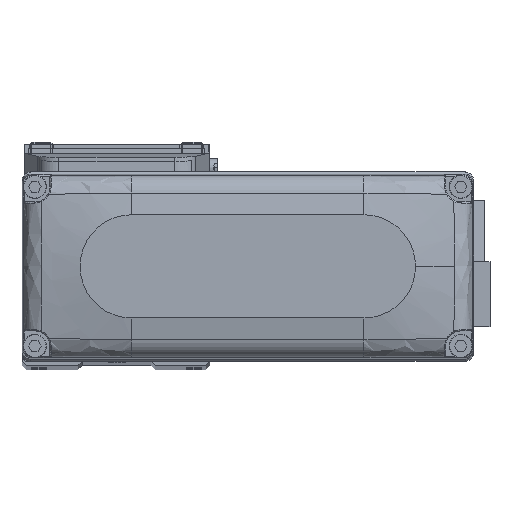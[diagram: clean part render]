
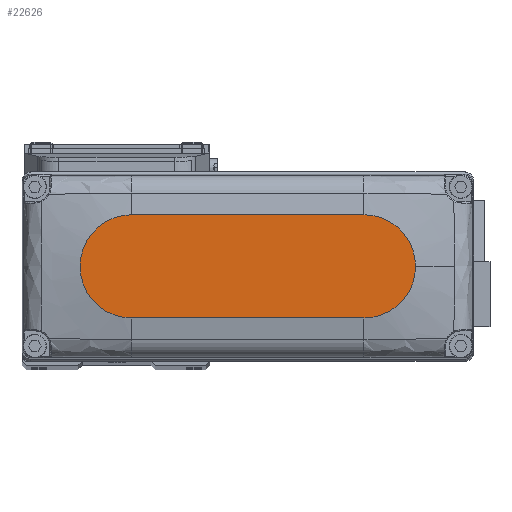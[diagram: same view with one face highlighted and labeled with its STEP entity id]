
A CAD part, top view. The second image highlights one B-rep face of the part: STEP entity #22626.
In plain terms, the highlighted planar face has unit normal (0, 0, 1).
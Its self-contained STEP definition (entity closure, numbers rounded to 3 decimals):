
#629 = ORIENTED_EDGE ( 'NONE', *, *, #12050, .T. ) ;
#1001 = VERTEX_POINT ( 'NONE', #23315 ) ;
#1386 = CARTESIAN_POINT ( 'NONE',  ( -27., 0., 25. ) ) ;
#1620 = ORIENTED_EDGE ( 'NONE', *, *, #27916, .T. ) ;
#2735 = DIRECTION ( 'NONE',  ( 1., 0., 0. ) ) ;
#2952 = DIRECTION ( 'NONE',  ( 0., 0., 1. ) ) ;
#3354 = DIRECTION ( 'NONE',  ( -1., 0., 0. ) ) ;
#3548 = VERTEX_POINT ( 'NONE', #21246 ) ;
#3925 = CIRCLE ( 'NONE', #26369, 12. ) ;
#5952 = ORIENTED_EDGE ( 'NONE', *, *, #28139, .T. ) ;
#5984 = FACE_OUTER_BOUND ( 'NONE', #37525, .T. ) ;
#7748 = DIRECTION ( 'NONE',  ( 0., 0., 1. ) ) ;
#7922 = LINE ( 'NONE', #20171, #29147 ) ;
#10144 = EDGE_CURVE ( 'NONE', #1001, #30426, #15471, .T. ) ;
#10637 = DIRECTION ( 'NONE',  ( 0., 0., 1. ) ) ;
#12050 = EDGE_CURVE ( 'NONE', #28759, #23071, #3925, .T. ) ;
#12347 = CARTESIAN_POINT ( 'NONE',  ( 39., 0., 25. ) ) ;
#13385 = AXIS2_PLACEMENT_3D ( 'NONE', #30483, #2952, #15194 ) ;
#15108 = CARTESIAN_POINT ( 'NONE',  ( 27., -12., 25. ) ) ;
#15194 = DIRECTION ( 'NONE',  ( 1., 0., 0. ) ) ;
#15471 = CIRCLE ( 'NONE', #37933, 12. ) ;
#16929 = EDGE_CURVE ( 'NONE', #30426, #28759, #7922, .T. ) ;
#17995 = CARTESIAN_POINT ( 'NONE',  ( 27., 0., 25. ) ) ;
#18228 = PLANE ( 'NONE',  #13385 ) ;
#18610 = LINE ( 'NONE', #30869, #30766 ) ;
#20005 = DIRECTION ( 'NONE',  ( 1., 0., 0. ) ) ;
#20171 = CARTESIAN_POINT ( 'NONE',  ( -27., -12., 25. ) ) ;
#21246 = CARTESIAN_POINT ( 'NONE',  ( 27., 12., 25. ) ) ;
#22626 = ADVANCED_FACE ( 'NONE', ( #5984 ), #18228, .T. ) ;
#22865 = DIRECTION ( 'NONE',  ( 1., 0., 0. ) ) ;
#23071 = VERTEX_POINT ( 'NONE', #12347 ) ;
#23315 = CARTESIAN_POINT ( 'NONE',  ( -27., 12., 25. ) ) ;
#24476 = ORIENTED_EDGE ( 'NONE', *, *, #16929, .T. ) ;
#26369 = AXIS2_PLACEMENT_3D ( 'NONE', #17995, #30257, #2735 ) ;
#27870 = ORIENTED_EDGE ( 'NONE', *, *, #10144, .T. ) ;
#27916 = EDGE_CURVE ( 'NONE', #3548, #1001, #18610, .T. ) ;
#28139 = EDGE_CURVE ( 'NONE', #23071, #3548, #33341, .T. ) ;
#28575 = CARTESIAN_POINT ( 'NONE',  ( -27., -12., 25. ) ) ;
#28759 = VERTEX_POINT ( 'NONE', #15108 ) ;
#29147 = VECTOR ( 'NONE', #32418, 1000. ) ;
#30257 = DIRECTION ( 'NONE',  ( 0., 0., 1. ) ) ;
#30426 = VERTEX_POINT ( 'NONE', #28575 ) ;
#30483 = CARTESIAN_POINT ( 'NONE',  ( 0., 0., 25. ) ) ;
#30766 = VECTOR ( 'NONE', #3354, 1000. ) ;
#30869 = CARTESIAN_POINT ( 'NONE',  ( -27., 12., 25. ) ) ;
#32418 = DIRECTION ( 'NONE',  ( 1., 0., 0. ) ) ;
#33341 = CIRCLE ( 'NONE', #38460, 12. ) ;
#35265 = CARTESIAN_POINT ( 'NONE',  ( 27., 0., 25. ) ) ;
#37525 = EDGE_LOOP ( 'NONE', ( #1620, #27870, #24476, #629, #5952 ) ) ;
#37933 = AXIS2_PLACEMENT_3D ( 'NONE', #1386, #10637, #22865 ) ;
#38460 = AXIS2_PLACEMENT_3D ( 'NONE', #35265, #7748, #20005 ) ;
